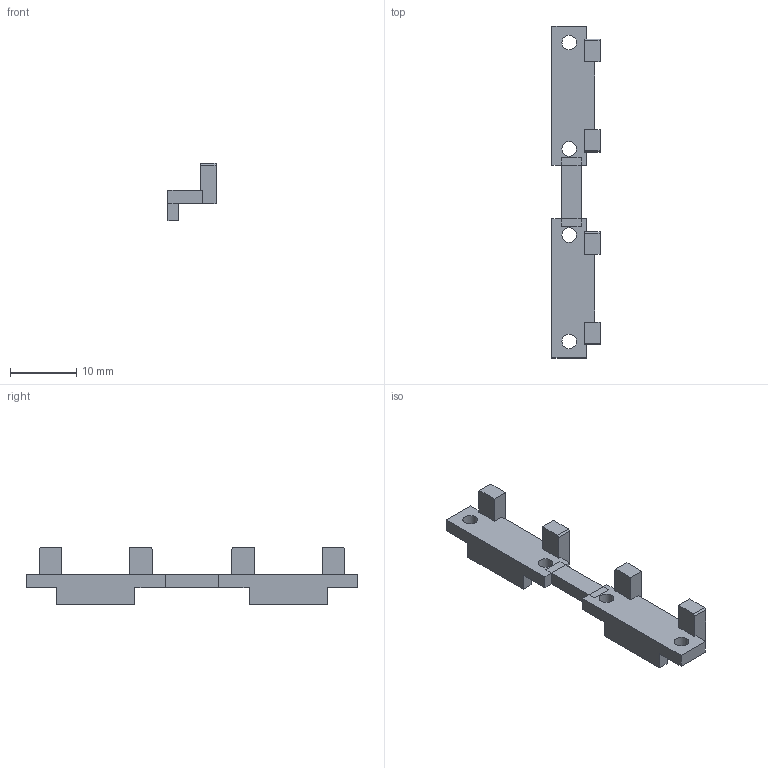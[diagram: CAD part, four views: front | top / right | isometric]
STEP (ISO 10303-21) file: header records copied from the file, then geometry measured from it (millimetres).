
FILE_DESCRIPTION(('Open CASCADE Model'),'2;1');
FILE_NAME('Open CASCADE Shape Model','2026-09-16T15:34:22',('Author'),( 'Open CASCADE'),'Open CASCADE STEP processor 7.7','Open CASCADE 7.7' ,'Unknown');
FILE_SCHEMA(('AUTOMOTIVE_DESIGN { 1 0 10303 214 1 1 1 1 }'));
Length unit declared in the file: millimetre
Products named in the file (1): SOLID
Bounding box: 7.25 x 50 x 8.7 mm (x, y, z)
Volume: 793.1 mm3; surface area: 1195.6 mm2
Topology: 1 solids, 1 shells, 62 faces, 172 edges, 112 vertices
Faces by surface type: plane 54, cylinder 8
Full cylindrical faces by diameter (mm): 2.2 x4
Entity records: 4202 total; most frequent: CARTESIAN_POINT 699, DIRECTION 650, LINE 476, VECTOR 476, ORIENTED_EDGE 344, PCURVE 344, DEFINITIONAL_REPRESENTATION 344, EDGE_CURVE 172
